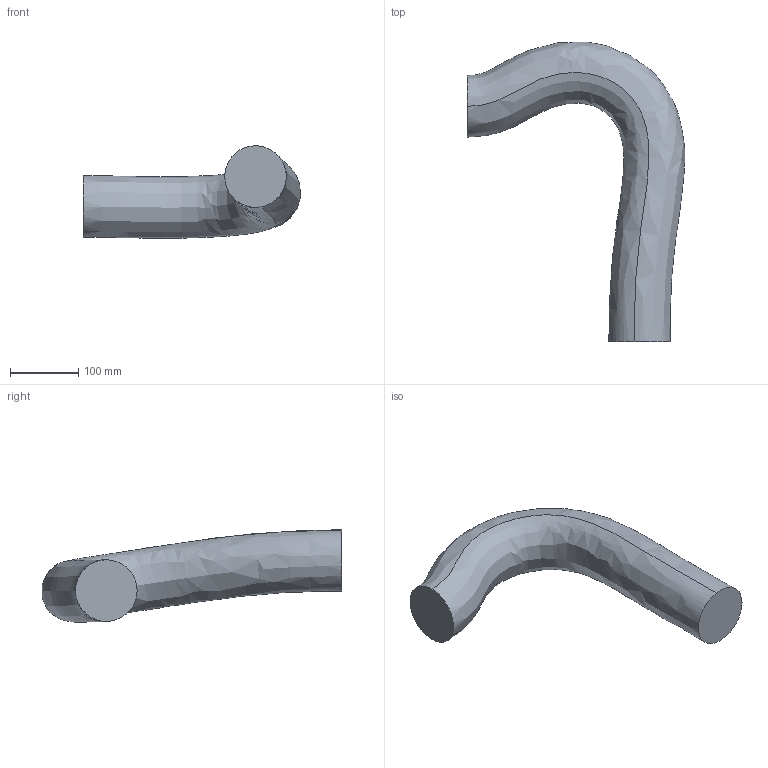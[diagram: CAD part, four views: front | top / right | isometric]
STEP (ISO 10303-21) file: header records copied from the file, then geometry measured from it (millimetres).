
FILE_DESCRIPTION (( 'STEP AP214' ), '1' );
FILE_NAME ('IRB5710-LID_90kg-230_OmniCore_rev00_LINK05_CABLE.step', '2025-07-07T14:15:05', ( '' ), ( '' ), 'SwSTEP 2.0', 'SolidWorks 2024', '' );
FILE_SCHEMA (( 'AUTOMOTIVE_DESIGN' ));
Length unit declared in the file: millimetre
Products named in the file (1): IRB5710-LID_90kg-230_OmniCore_rev00_LINK05_CABLE
Bounding box: 317.85 x 437.93 x 135.14 mm (x, y, z)
Volume: 4020557.9 mm3; surface area: 191402.9 mm2
Topology: 1 solids, 1 shells, 4 faces, 6 edges, 4 vertices
Faces by surface type: bspline 2, plane 2
Entity records: 1297 total; most frequent: CARTESIAN_POINT 1163, DIRECTION 14, ORIENTED_EDGE 12, AXIS2_PLACEMENT_3D 7, UNCERTAINTY_MEASURE_WITH_UNIT 6, EDGE_CURVE 6, FILL_AREA_STYLE_COLOUR 5, STYLED_ITEM 5
